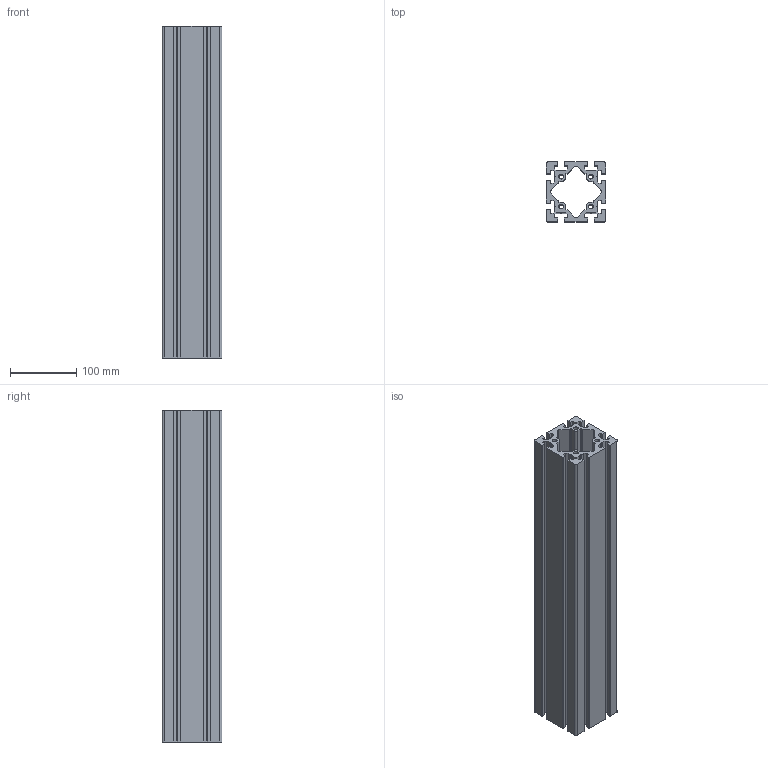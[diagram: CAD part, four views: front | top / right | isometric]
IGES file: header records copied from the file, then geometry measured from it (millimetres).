
Start section: SolidWorks IGES file using analytic representation for surfaces
Global section: file name: C:\Documents and Settings\Administrator\デスクトップ\指定保存後4回目\SolidWorks\SF\SF40・45\Frame\SFF-H94.IGS,41HSolidWorks; native system: 2006 by SolidWorks Corporation; preprocessor: SolidWorks 2006 by SolidWorks Corporation; author: Administrator; date: 061218.111509; units: millimetre
Bounding box: 90 x 90 x 500 mm (x, y, z)
Volume: 1635113.2 mm3; surface area: 519382.8 mm2
Topology: 1 solids, 1 shells, 230 faces, 684 edges, 456 vertices
Faces by surface type: plane 138, revolution 92
